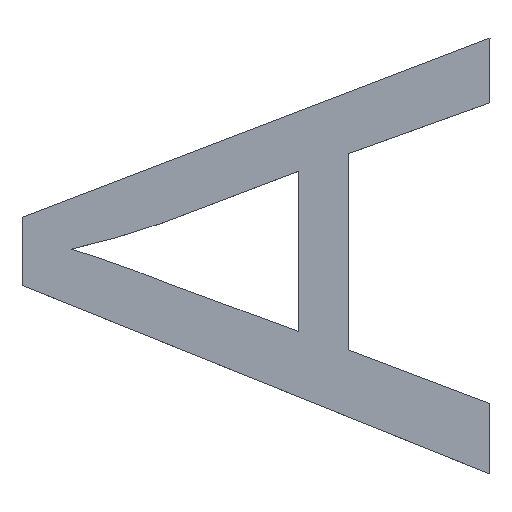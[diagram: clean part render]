
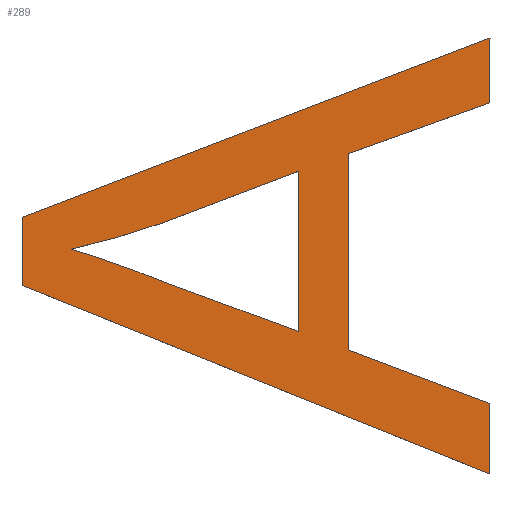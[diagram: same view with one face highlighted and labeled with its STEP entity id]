
A CAD part, top view. The second image highlights one B-rep face of the part: STEP entity #289.
In plain terms, the highlighted planar face has unit normal (0, 0, 1).
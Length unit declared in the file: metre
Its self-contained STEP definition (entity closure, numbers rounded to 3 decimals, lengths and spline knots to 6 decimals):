
#13=CIRCLE('',#309,0.002445);
#18=B_SPLINE_CURVE_WITH_KNOTS('',3,(#457,#458,#459,#460),.UNSPECIFIED.,
 .F.,.F.,(4,4),(0.001995,0.999954),.UNSPECIFIED.);
#72=ORIENTED_EDGE('',*,*,#121,.T.);
#73=ORIENTED_EDGE('',*,*,#119,.T.);
#74=ORIENTED_EDGE('',*,*,#116,.T.);
#75=ORIENTED_EDGE('',*,*,#113,.T.);
#76=ORIENTED_EDGE('',*,*,#110,.T.);
#77=ORIENTED_EDGE('',*,*,#107,.T.);
#78=ORIENTED_EDGE('',*,*,#104,.T.);
#79=ORIENTED_EDGE('',*,*,#101,.T.);
#80=ORIENTED_EDGE('',*,*,#136,.T.);
#81=ORIENTED_EDGE('',*,*,#134,.T.);
#82=ORIENTED_EDGE('',*,*,#131,.T.);
#83=ORIENTED_EDGE('',*,*,#128,.T.);
#84=ORIENTED_EDGE('',*,*,#125,.T.);
#101=EDGE_CURVE('',#137,#140,#166,.T.);
#104=EDGE_CURVE('',#141,#137,#169,.F.);
#107=EDGE_CURVE('',#143,#141,#172,.T.);
#110=EDGE_CURVE('',#145,#143,#175,.F.);
#113=EDGE_CURVE('',#147,#145,#178,.T.);
#116=EDGE_CURVE('',#149,#147,#181,.F.);
#119=EDGE_CURVE('',#151,#149,#184,.T.);
#121=EDGE_CURVE('',#140,#151,#186,.T.);
#125=EDGE_CURVE('',#153,#156,#190,.T.);
#128=EDGE_CURVE('',#157,#153,#192,.T.);
#131=EDGE_CURVE('',#159,#157,#18,.T.);
#134=EDGE_CURVE('',#161,#159,#13,.F.);
#136=EDGE_CURVE('',#156,#161,#195,.T.);
#137=VERTEX_POINT('',#385);
#140=VERTEX_POINT('',#390);
#141=VERTEX_POINT('',#394);
#143=VERTEX_POINT('',#400);
#145=VERTEX_POINT('',#406);
#147=VERTEX_POINT('',#412);
#149=VERTEX_POINT('',#418);
#151=VERTEX_POINT('',#424);
#153=VERTEX_POINT('',#433);
#156=VERTEX_POINT('',#438);
#157=VERTEX_POINT('',#445);
#159=VERTEX_POINT('',#451);
#161=VERTEX_POINT('',#466);
#166=LINE('',#391,#199);
#169=LINE('',#397,#202);
#172=LINE('',#403,#205);
#175=LINE('',#409,#208);
#178=LINE('',#415,#211);
#181=LINE('',#421,#214);
#184=LINE('',#427,#217);
#186=LINE('',#430,#219);
#190=LINE('',#439,#223);
#192=LINE('',#448,#225);
#195=LINE('',#472,#228);
#199=VECTOR('',#320,1.);
#202=VECTOR('',#325,1.);
#205=VECTOR('',#330,1.);
#208=VECTOR('',#335,1.);
#211=VECTOR('',#340,1.);
#214=VECTOR('',#345,1.);
#217=VECTOR('',#350,1.);
#219=VECTOR('',#354,1.);
#223=VECTOR('',#360,1.);
#225=VECTOR('',#364,1.);
#228=VECTOR('',#377,1.);
#242=EDGE_LOOP('',(#72,#73,#74,#75,#76,#77,#78,#79));
#243=EDGE_LOOP('',(#80,#81,#82,#83,#84));
#259=FACE_BOUND('',#242,.T.);
#260=FACE_BOUND('',#243,.T.);
#274=PLANE('',#311);
#289=ADVANCED_FACE('',(#259,#260),#274,.F.);
#309=AXIS2_PLACEMENT_3D('',#469,#372,#373);
#311=AXIS2_PLACEMENT_3D('',#473,#378,#379);
#320=DIRECTION('',(-0.934,-0.358,0.));
#325=DIRECTION('',(0.,-1.,0.));
#330=DIRECTION('',(0.941,0.338,0.));
#335=DIRECTION('',(0.,-1.,0.));
#340=DIRECTION('',(-0.935,0.354,0.));
#345=DIRECTION('',(0.,-1.,0.));
#350=DIRECTION('',(0.928,-0.373,0.));
#354=DIRECTION('',(0.,-1.,0.));
#360=DIRECTION('',(0.,-1.,0.));
#364=DIRECTION('',(0.935,0.356,0.));
#372=DIRECTION('',(0.,0.,-1.));
#373=DIRECTION('',(1.,0.,0.));
#377=DIRECTION('',(-0.938,0.346,0.));
#378=DIRECTION('',(0.,0.,-1.));
#379=DIRECTION('',(0.,-1.,0.));
#385=CARTESIAN_POINT('',(-0.020588,0.003892,-0.03));
#390=CARTESIAN_POINT('',(-0.021523,0.003534,-0.03));
#391=CARTESIAN_POINT('',(-0.020588,0.003892,-0.03));
#394=CARTESIAN_POINT('',(-0.020588,0.003762,-0.03));
#397=CARTESIAN_POINT('',(-0.020588,0.003462,-0.03));
#400=CARTESIAN_POINT('',(-0.020871,0.003661,-0.03));
#403=CARTESIAN_POINT('',(-0.020871,0.003661,-0.03));
#406=CARTESIAN_POINT('',(-0.020871,0.003269,-0.03));
#409=CARTESIAN_POINT('',(-0.020871,0.003462,-0.03));
#412=CARTESIAN_POINT('',(-0.020588,0.003162,-0.03));
#415=CARTESIAN_POINT('',(-0.020588,0.003162,-0.03));
#418=CARTESIAN_POINT('',(-0.020588,0.003021,-0.03));
#421=CARTESIAN_POINT('',(-0.020588,0.003462,-0.03));
#424=CARTESIAN_POINT('',(-0.021523,0.003397,-0.03));
#427=CARTESIAN_POINT('',(-0.021523,0.003397,-0.03));
#430=CARTESIAN_POINT('',(-0.021523,0.003462,-0.03));
#433=CARTESIAN_POINT('',(-0.020972,0.003626,-0.03));
#438=CARTESIAN_POINT('',(-0.020972,0.003306,-0.03));
#439=CARTESIAN_POINT('',(-0.020972,0.003462,-0.03));
#445=CARTESIAN_POINT('',(-0.021245,0.003522,-0.03));
#448=CARTESIAN_POINT('',(-0.021245,0.003522,-0.03));
#451=CARTESIAN_POINT('',(-0.021425,0.00347,-0.03));
#457=CARTESIAN_POINT('',(-0.021425,0.00347,-0.03));
#458=CARTESIAN_POINT('',(-0.021365,0.003484,-0.03));
#459=CARTESIAN_POINT('',(-0.021305,0.003501,-0.03));
#460=CARTESIAN_POINT('',(-0.021245,0.003522,-0.03));
#466=CARTESIAN_POINT('',(-0.021232,0.003402,-0.03));
#469=CARTESIAN_POINT('',(-0.022147,0.001134,-0.03));
#472=CARTESIAN_POINT('',(-0.020972,0.003306,-0.03));
#473=CARTESIAN_POINT('',(-0.021009,0.003462,-0.03));
